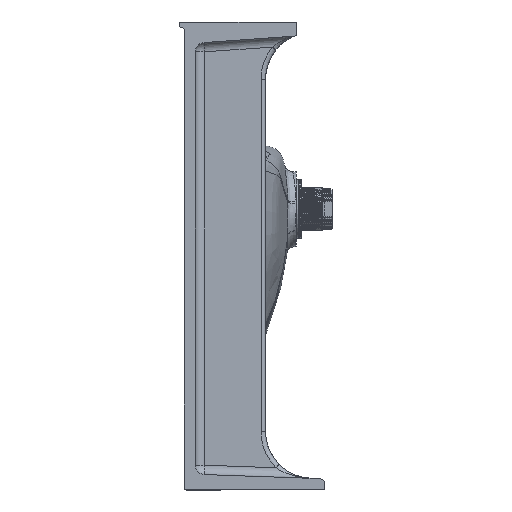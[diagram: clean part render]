
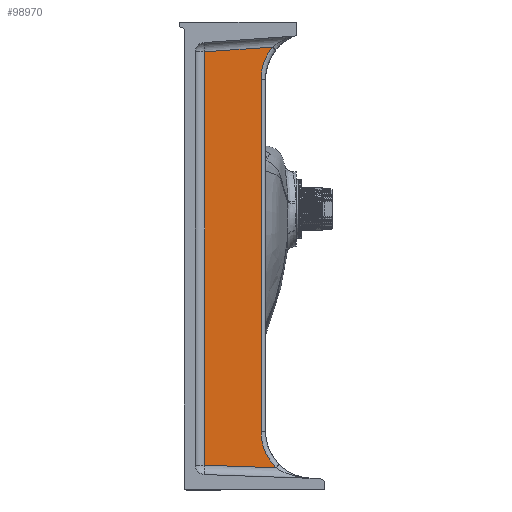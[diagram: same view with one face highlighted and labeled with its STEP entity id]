
A CAD part, left-side view. The second image highlights one B-rep face of the part: STEP entity #98970.
In plain terms, the highlighted planar face has unit normal (-1, -0.018, 0).
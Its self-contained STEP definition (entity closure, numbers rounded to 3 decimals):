
#776 = DIRECTION ( 'NONE',  ( 0.017, -0.999, -0.035 ) ) ;
#7298 = CARTESIAN_POINT ( 'NONE',  ( -1056.086, -82.087, -252.184 ) ) ;
#16113 = DIRECTION ( 'NONE',  ( 0.017, -1., 0. ) ) ;
#21085 = CARTESIAN_POINT ( 'NONE',  ( -1056.086, -82.087, -237.516 ) ) ;
#23374 = EDGE_CURVE ( 'NONE', #31633, #130029, #142848, .T. ) ;
#23869 = CARTESIAN_POINT ( 'NONE',  ( -1055.808, -97.974, -276.183 ) ) ;
#24376 = CARTESIAN_POINT ( 'NONE',  ( -1056.086, -82.087, 138.716 ) ) ;
#31633 = VERTEX_POINT ( 'NONE', #102493 ) ;
#37251 = EDGE_CURVE ( 'NONE', #130912, #107469, #61430, .T. ) ;
#37964 = LINE ( 'NONE', #98361, #54405 ) ;
#38053 = LINE ( 'NONE', #87309, #150271 ) ;
#38401 = PLANE ( 'NONE',  #93635 ) ;
#38910 = CARTESIAN_POINT ( 'NONE',  ( -1057.138, -21.825, -273.524 ) ) ;
#51632 = CARTESIAN_POINT ( 'NONE',  ( -1055.152, -135.604, -277.497 ) ) ;
#52321 = VECTOR ( 'NONE', #776, 1000. ) ;
#54340 = EDGE_CURVE ( 'NONE', #119664, #31633, #37964, .T. ) ;
#54405 = VECTOR ( 'NONE', #73746, 1000. ) ;
#54817 = CARTESIAN_POINT ( 'NONE',  ( -1056.086, -82.087, 151.377 ) ) ;
#56402 = CARTESIAN_POINT ( 'NONE',  ( -1056.086, -82.087, 138.716 ) ) ;
#61430 =( BOUNDED_CURVE ( )  B_SPLINE_CURVE ( 3, ( #78860, #139219, #7298, #140797 ),
 .UNSPECIFIED., .F., .F. ) 
 B_SPLINE_CURVE_WITH_KNOTS ( ( 4, 4 ),
 ( 2.362, 3.142 ),
 .UNSPECIFIED. ) 
 CURVE ( )  GEOMETRIC_REPRESENTATION_ITEM ( )  RATIONAL_B_SPLINE_CURVE ( ( 1., 0.95, 0.95, 1. ) ) 
 REPRESENTATION_ITEM ( '' )  );
#62678 = DIRECTION ( 'NONE',  ( 0., 0., 1. ) ) ;
#70679 = EDGE_CURVE ( 'NONE', #130029, #130912, #97732, .T. ) ;
#73746 = DIRECTION ( 'NONE',  ( -0.017, 0.997, -0.07 ) ) ;
#76526 = FACE_OUTER_BOUND ( 'NONE', #114482, .T. ) ;
#78576 = EDGE_CURVE ( 'NONE', #150113, #119664, #147055, .T. ) ;
#78860 = CARTESIAN_POINT ( 'NONE',  ( -1055.808, -97.974, -276.183 ) ) ;
#86883 = DIRECTION ( 'NONE',  ( -1., -0.017, 0. ) ) ;
#87309 = CARTESIAN_POINT ( 'NONE',  ( -1056.086, -82.087, -363.571 ) ) ;
#90010 = ORIENTED_EDGE ( 'NONE', *, *, #70679, .T. ) ;
#93635 = AXIS2_PLACEMENT_3D ( 'NONE', #111494, #86883, #16113 ) ;
#97732 = LINE ( 'NONE', #51632, #52321 ) ;
#98361 = CARTESIAN_POINT ( 'NONE',  ( -1057.297, -12.697, 167.484 ) ) ;
#98970 = ADVANCED_FACE ( 'NONE', ( #76526 ), #38401, .T. ) ;
#102493 = CARTESIAN_POINT ( 'NONE',  ( -1057.138, -21.825, 168.123 ) ) ;
#106892 = VECTOR ( 'NONE', #107862, 1000. ) ;
#106903 = ORIENTED_EDGE ( 'NONE', *, *, #143807, .T. ) ;
#107469 = VERTEX_POINT ( 'NONE', #21085 ) ;
#107862 = DIRECTION ( 'NONE',  ( 0., 0., -1. ) ) ;
#109015 = ORIENTED_EDGE ( 'NONE', *, *, #54340, .T. ) ;
#111494 = CARTESIAN_POINT ( 'NONE',  ( -1057.196, -18.453, -363.571 ) ) ;
#114482 = EDGE_LOOP ( 'NONE', ( #90010, #157327, #106903, #136314, #109015, #127130 ) ) ;
#117586 = CARTESIAN_POINT ( 'NONE',  ( -1055.874, -94.229, 173.186 ) ) ;
#119664 = VERTEX_POINT ( 'NONE', #120229 ) ;
#120229 = CARTESIAN_POINT ( 'NONE',  ( -1055.874, -94.229, 173.186 ) ) ;
#127130 = ORIENTED_EDGE ( 'NONE', *, *, #23374, .T. ) ;
#130029 = VERTEX_POINT ( 'NONE', #38910 ) ;
#130912 = VERTEX_POINT ( 'NONE', #23869 ) ;
#136314 = ORIENTED_EDGE ( 'NONE', *, *, #78576, .T. ) ;
#139219 = CARTESIAN_POINT ( 'NONE',  ( -1055.988, -87.662, -265.752 ) ) ;
#140797 = CARTESIAN_POINT ( 'NONE',  ( -1056.086, -82.087, -237.516 ) ) ;
#142848 = LINE ( 'NONE', #155543, #106892 ) ;
#143807 = EDGE_CURVE ( 'NONE', #107469, #150113, #38053, .T. ) ;
#147055 =( BOUNDED_CURVE ( )  B_SPLINE_CURVE ( 3, ( #56402, #54817, #151721, #117586 ),
 .UNSPECIFIED., .F., .F. ) 
 B_SPLINE_CURVE_WITH_KNOTS ( ( 4, 4 ),
 ( 0., 0.677 ),
 .UNSPECIFIED. ) 
 CURVE ( )  GEOMETRIC_REPRESENTATION_ITEM ( )  RATIONAL_B_SPLINE_CURVE ( ( 1., 0.962, 0.962, 1. ) ) 
 REPRESENTATION_ITEM ( '' )  );
#150113 = VERTEX_POINT ( 'NONE', #24376 ) ;
#150271 = VECTOR ( 'NONE', #62678, 1000. ) ;
#151721 = CARTESIAN_POINT ( 'NONE',  ( -1056.012, -86.294, 163.319 ) ) ;
#155543 = CARTESIAN_POINT ( 'NONE',  ( -1057.138, -21.825, -363.571 ) ) ;
#157327 = ORIENTED_EDGE ( 'NONE', *, *, #37251, .T. ) ;
